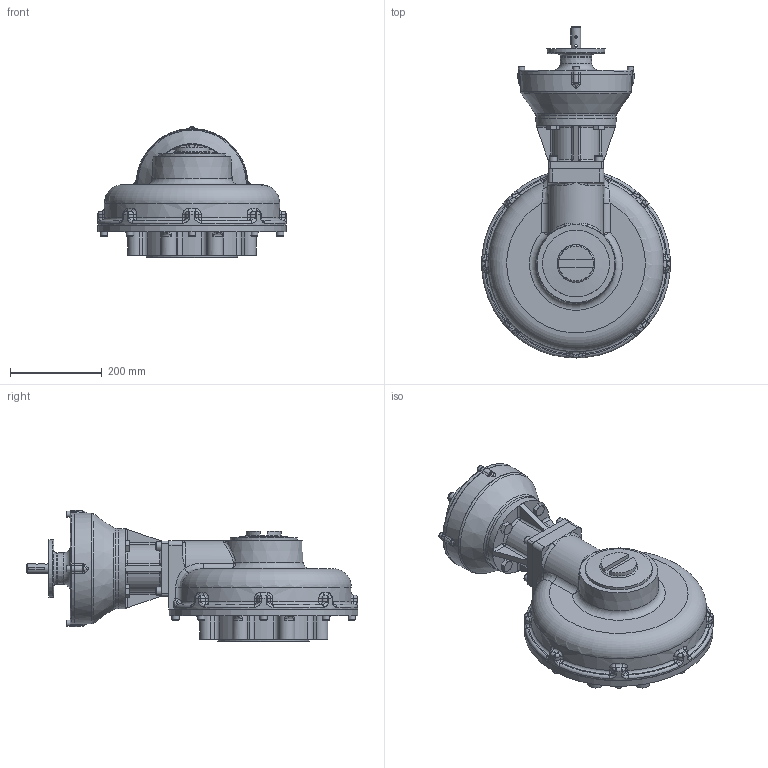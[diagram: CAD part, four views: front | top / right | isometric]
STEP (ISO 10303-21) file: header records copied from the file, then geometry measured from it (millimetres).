
FILE_DESCRIPTION( ( 'Unknown' ), '1' );
FILE_NAME( 'X:/CURRENT/PUB/Hob/HOB-2014/HOB-MPR/HOB-MPR-STP_FILES/PUB-HOB10MPR10-40.5-E-F25.stp', 'Unknown', ( 'Unknown' ), ( 'Unknown' ), 'PSStep 16.0.42', 'Unknown', ' ' );
FILE_SCHEMA( ( 'AUTOMOTIVE_DESIGN { 1 0 10303 214 1 1 1 1 }' ) );
Length unit declared in the file: millimetre
Products named in the file (31): 1; 2; 3; 4; 5; 6; 7; 8; 9; 10; 11; 12; 13; 14; 15; 16; 17; 18; 19; 20; 21; 22; trelleborg_trea00200-n7mm_b5c67wtxxcj74kwnwb2box077_01; 23; 24; 25; 26; 27; 28; 29; 30
Bounding box: 412 x 724.98 x 286.38 mm (x, y, z)
Surface area: 1783485.5 mm2 (no closed solid volume)
Topology: 0 solids, 3516 shells, 3516 faces, 17956 edges, 17460 vertices
Faces by surface type: cylinder 1240, plane 944, cone 573, bspline 334, torus 333, sphere 92
Full cylindrical faces by diameter (mm): 6 x2, 6.647 x8, 8 x4, 8.5 x12, 10 x8, 10.2 x4, 10.5 x12, 12 x4, 12.5 x4, 13.27 x4, 13.376 x8, 13.835 x8, 16 x12, 16.5 x4, 18 x4, 19 x1, 20 x4, 22.098 x1, 23 x1, 25 x1, 29.5 x1, 29.583 x1, 30 x3, 50 x2, 55.115 x1, 66.675 x1, 70 x1, 90 x2, 94 x1, 99.25 x1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
Entity records: 298088 total; most frequent: CARTESIAN_POINT 139967, DIRECTION 28342, VERTEX_POINT 17304, ORIENTED_EDGE 17272, EDGE_CURVE 17272, AXIS2_PLACEMENT_3D 10985, CIRCLE 7732, LINE 6372
